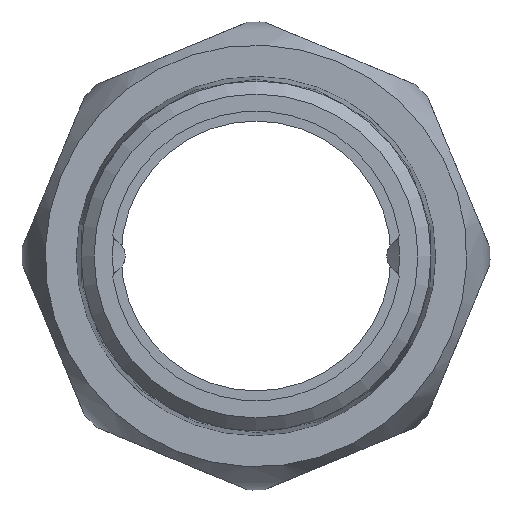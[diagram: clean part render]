
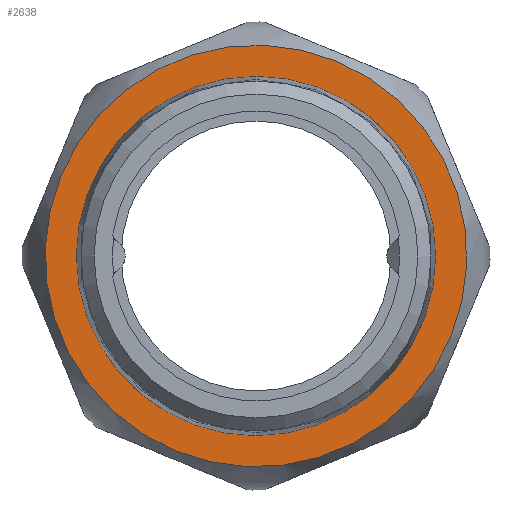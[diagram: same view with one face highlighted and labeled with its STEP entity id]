
A CAD part, left-side view. The second image highlights one B-rep face of the part: STEP entity #2638.
In plain terms, the highlighted planar face has unit normal (-1, 0, 0) as drawn and (1, 0, 0) by its records, which use the part's own axes.
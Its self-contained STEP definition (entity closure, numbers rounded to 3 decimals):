
#2604=CARTESIAN_POINT('',(19.0,25.0,0.0));
#2605=VERTEX_POINT('',#2604);
#2606=CARTESIAN_POINT('',(19.0,0.0,0.0));
#2607=DIRECTION('',(1.0,0.0,0.0));
#2608=DIRECTION('',(0.0,1.0,0.0));
#2609=AXIS2_PLACEMENT_3D('',#2606,#2607,#2608);
#2610=CIRCLE('',#2609,25.0);
#2611=EDGE_CURVE('',#2605,#2605,#2610,.T.);
#2619=CARTESIAN_POINT('',(19.0,23.125,0.0));
#2620=DIRECTION('',(1.0,0.0,0.0));
#2621=DIRECTION('',(0.0,0.0,-1.0));
#2622=AXIS2_PLACEMENT_3D('',#2619,#2620,#2621);
#2623=PLANE('',#2622);
#2624=ORIENTED_EDGE('',*,*,#2611,.T.);
#2625=EDGE_LOOP('',(#2624));
#2626=FACE_OUTER_BOUND('',#2625,.T.);
#2627=CARTESIAN_POINT('',(19.0,21.25,0.0));
#2628=VERTEX_POINT('',#2627);
#2629=CARTESIAN_POINT('',(19.0,0.0,0.0));
#2630=DIRECTION('',(1.0,0.0,0.0));
#2631=DIRECTION('',(0.0,1.0,0.0));
#2632=AXIS2_PLACEMENT_3D('',#2629,#2630,#2631);
#2633=CIRCLE('',#2632,21.25);
#2634=EDGE_CURVE('',#2628,#2628,#2633,.T.);
#2635=ORIENTED_EDGE('',*,*,#2634,.F.);
#2636=EDGE_LOOP('',(#2635));
#2637=FACE_BOUND('',#2636,.T.);
#2638=ADVANCED_FACE('',(#2626,#2637),#2623,.T.);
